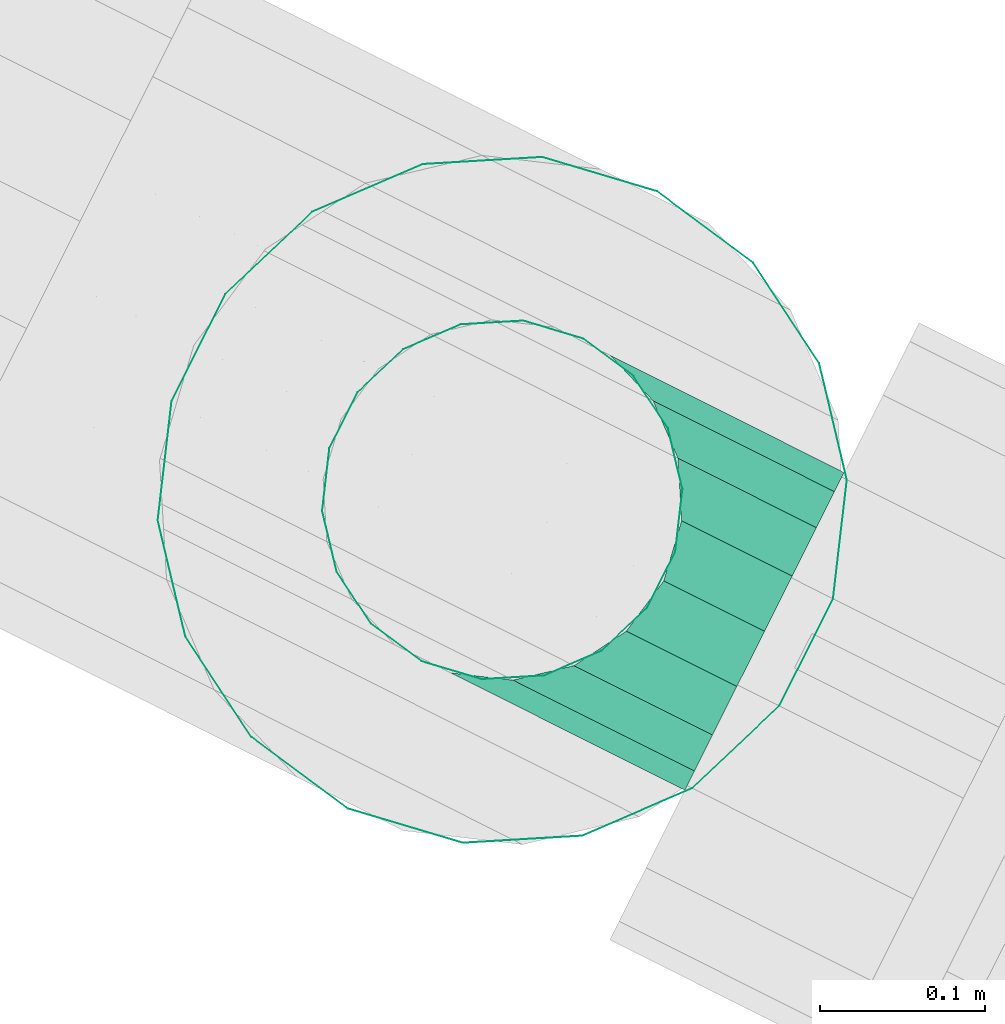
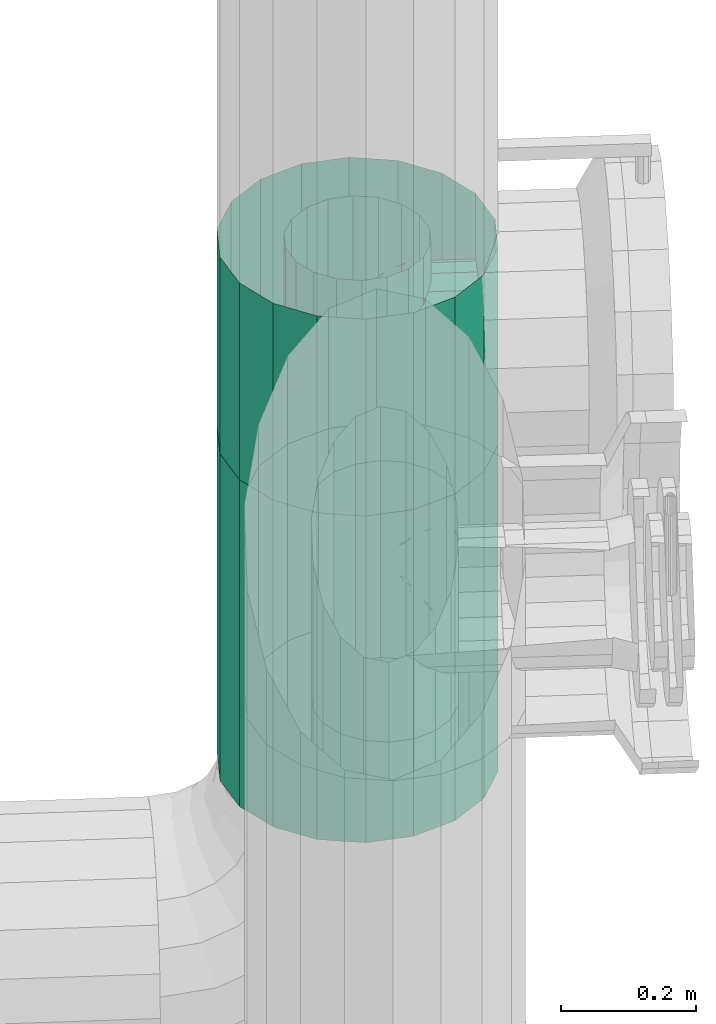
# One storey, part 9 of 11: 1 flow fitting, 1 flow segment.
"""IFC2X3 building model written with IfcOpenShell, lengths in metres."""

from ifc_helpers import new_model, si_unit, derived_unit, direction, frame, origin, place, context, subcontext, project, spatial, face_set, surface_model, source, transform, mapped, material, type_object, type_shapes, element, save


model = new_model("IFC2X3")

# Units and contexts
model_context = context("Model", 3, precision=5.2338327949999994e-05, world=origin(), true_north=direction((0.0, 1.0)))
body_context = subcontext(model_context, "Body", "Model", "MODEL_VIEW")
ifc_project = project(units=[si_unit("LENGTHUNIT", "METRE"), si_unit("AREAUNIT", "SQUARE_METRE"), si_unit("VOLUMEUNIT", "CUBIC_METRE"), si_unit("MASSUNIT", "GRAM", prefix="KILO"), si_unit("PLANEANGLEUNIT", "RADIAN"), derived_unit("THERMALTRANSMITTANCEUNIT", [(si_unit("MASSUNIT", "GRAM", prefix="KILO"), 1), (si_unit("THERMODYNAMICTEMPERATUREUNIT", "KELVIN"), -1), (si_unit("TIMEUNIT", "SECOND"), -3)])], contexts=[model_context])

# Site, building, storey
site_placement = place(None, frame((0.0, 0.0, 0.0), z_axis=(0.0, 0.0, 1.0), x_axis=(0.8939966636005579, -0.4480736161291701, 0.0)))
site = spatial("IfcSite", under=ifc_project, at=site_placement, Name="Default", CompositionType="ELEMENT")
building_placement = place(site_placement, origin())
building = spatial("IfcBuilding", under=site, at=building_placement, CompositionType="ELEMENT")
storey_placement = place(building_placement, frame((0.0, 0.0, -2.7499999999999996)))
storey = spatial("IfcBuildingStorey", under=building, at=storey_placement, Name="1. Untergeschoss", CompositionType="ELEMENT", Elevation=-2.7499999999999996)

# Flow fitting
ifc_material = material(Name="IfcSurfaceStyle #1741")
distribution_element_type_1 = type_object("IfcDistributionElementType", Name="Abzweigstück 860202:Abzweigstück 860202", material=ifc_material)
shared_shape_1 = source(origin(), body_context, "Body", "SurfaceModel", [
    surface_model("IfcFaceBasedSurfaceModel", [(0.9162699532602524, 8.121758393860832, -1.1831073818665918), (0.8788016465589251, 8.11515172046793, -1.1831073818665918), (0.8788016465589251, 8.11515172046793, -0.8271073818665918), (0.9162699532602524, 8.121758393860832, -0.8271073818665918), (0.8458525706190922, 8.096128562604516, -1.1831073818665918), (0.8458525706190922, 8.096128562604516, -0.8271073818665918), (0.821396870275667, 8.066983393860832, -1.1831073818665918), (0.821396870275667, 8.066983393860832, -0.8271073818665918), (0.8083842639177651, 8.031231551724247, -1.1831073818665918), (0.8083842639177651, 8.031231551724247, -0.8271073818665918), (0.8083842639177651, 7.993185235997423, -1.1831073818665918), (0.8083842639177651, 7.993185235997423, -0.8271073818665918), (0.8213968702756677, 7.957433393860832, -1.1831073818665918), (0.8213968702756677, 7.957433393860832, -0.8271073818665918), (0.8458525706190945, 7.928288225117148, -1.1831073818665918), (0.8458525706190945, 7.928288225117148, -0.8271073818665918), (0.8788016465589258, 7.909265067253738, -1.1831073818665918), (0.8788016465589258, 7.909265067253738, -0.8271073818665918), (0.9162699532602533, 7.902658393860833, -1.1831073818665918), (0.9162699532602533, 7.902658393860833, -0.8271073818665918), (0.9537382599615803, 7.909265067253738, -1.1831073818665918), (0.9537382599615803, 7.909265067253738, -0.8271073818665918), (0.9866873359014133, 7.928288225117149, -1.1831073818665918), (0.9866873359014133, 7.928288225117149, -0.8271073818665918), (1.0111430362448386, 7.957433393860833, -1.1831073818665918), (1.0111430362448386, 7.957433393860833, -0.8271073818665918), (1.02415564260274, 7.993185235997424, -1.1831073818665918), (1.02415564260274, 7.993185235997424, -0.8271073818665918), (1.0241556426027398, 8.031231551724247, -1.1831073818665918), (1.0241556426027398, 8.031231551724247, -0.8271073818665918), (1.011143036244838, 8.066983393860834, -1.1831073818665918), (1.011143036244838, 8.066983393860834, -0.8271073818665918), (0.9866873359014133, 8.096128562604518, -1.1831073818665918), (0.9866873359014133, 8.096128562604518, -0.8271073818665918), (0.9537382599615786, 8.11515172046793, -1.1831073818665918), (0.9537382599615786, 8.11515172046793, -0.8271073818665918), (0.9162699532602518, 8.221758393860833, -1.1831073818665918), (0.8445996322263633, 8.209120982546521, -1.1831073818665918), (0.8445996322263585, 8.20912098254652, -0.8271073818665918), (0.9162699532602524, 8.22175839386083, -0.8271073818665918), (0.7815738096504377, 8.172733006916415, -1.1831073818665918), (0.7815738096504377, 8.172733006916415, -0.8271073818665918), (0.7347943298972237, 8.11698339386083, -1.1831073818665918), (0.7347943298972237, 8.11698339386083, -0.8271073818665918), (0.7099034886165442, 8.048596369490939, -1.1831073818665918), (0.7099034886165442, 8.048596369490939, -0.8271073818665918), (0.7099034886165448, 7.975820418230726, -1.1831073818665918), (0.7099034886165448, 7.975820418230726, -0.8271073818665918), (0.7347943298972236, 7.907433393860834, -1.1831073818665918), (0.7347943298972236, 7.907433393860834, -0.8271073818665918), (0.7815738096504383, 7.85168378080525, -1.1831073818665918), (0.7815738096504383, 7.85168378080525, -0.8271073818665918), (0.84459963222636, 7.815295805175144, -1.1831073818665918), (0.84459963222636, 7.815295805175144, -0.8271073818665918), (0.9162699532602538, 7.802658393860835, -1.1831073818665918), (0.9162699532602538, 7.802658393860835, -0.8271073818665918), (0.9879402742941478, 7.815295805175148, -1.1831073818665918), (0.9879402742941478, 7.815295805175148, -0.8271073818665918), (1.0509660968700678, 7.851683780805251, -1.1831073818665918), (1.0509660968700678, 7.851683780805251, -0.8271073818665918), (1.0977455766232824, 7.907433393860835, -1.1831073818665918), (1.0977455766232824, 7.907433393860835, -0.8271073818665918), (1.1226364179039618, 7.975820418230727, -1.1831073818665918), (1.1226364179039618, 7.975820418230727, -0.8271073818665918), (1.1226364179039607, 8.048596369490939, -1.1831073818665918), (1.1226364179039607, 8.048596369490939, -0.8271073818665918), (1.0977455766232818, 8.116983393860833, -1.1831073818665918), (1.0977455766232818, 8.116983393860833, -0.8271073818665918), (1.0509660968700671, 8.172733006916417, -1.1831073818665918), (1.0509660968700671, 8.172733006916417, -0.8271073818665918), (0.9879402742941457, 8.209120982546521, -1.1831073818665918), (0.9879402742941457, 8.209120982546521, -0.8271073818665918), (1.025819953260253, 8.012208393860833, -0.8955573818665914), (1.0192132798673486, 7.974740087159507, -0.9021640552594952), (1.094269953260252, 7.974740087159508, -0.9021640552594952), (1.0942699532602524, 8.012208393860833, -0.8955573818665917), (1.0001901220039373, 7.941791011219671, -0.9211872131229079), (1.0942699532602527, 7.941791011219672, -0.9211872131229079), (0.9710449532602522, 7.917335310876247, -0.9503323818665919), (1.0942699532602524, 7.917335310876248, -0.950332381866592), (0.9352931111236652, 7.904322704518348, -0.98608422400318), (1.094269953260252, 7.904322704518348, -0.9860842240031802), (0.9352931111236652, 7.904322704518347, -1.024130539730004), (1.094269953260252, 7.904322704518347, -1.024130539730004), (0.9710449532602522, 7.917335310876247, -1.0598823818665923), (1.0942699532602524, 7.917335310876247, -1.0598823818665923), (1.0001901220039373, 7.94179101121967, -1.0890275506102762), (1.0942699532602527, 7.941791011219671, -1.0890275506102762), (1.0192132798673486, 7.974740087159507, -1.1080507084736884), (1.094269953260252, 7.974740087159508, -1.1080507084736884), (1.025819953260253, 8.012208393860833, -1.1146573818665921), (1.0942699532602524, 8.012208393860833, -1.1146573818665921), (1.0192132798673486, 8.049676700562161, -1.1080507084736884), (1.094269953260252, 8.049676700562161, -1.1080507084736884), (1.000190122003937, 8.082625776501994, -1.089027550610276), (1.0942699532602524, 8.082625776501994, -1.089027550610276), (0.9710449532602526, 8.107081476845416, -1.0598823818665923), (1.0942699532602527, 8.107081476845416, -1.0598823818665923), (0.9352931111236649, 8.12009408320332, -1.0241305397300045), (1.094269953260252, 8.120094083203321, -1.0241305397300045), (0.9352931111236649, 8.12009408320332, -0.9860842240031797), (1.094269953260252, 8.120094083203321, -0.9860842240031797), (0.9710449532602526, 8.107081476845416, -0.9503323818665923), (1.0942699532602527, 8.107081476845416, -0.9503323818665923), (1.000190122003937, 8.082625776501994, -0.9211872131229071), (1.0942699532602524, 8.082625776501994, -0.9211872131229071), (1.0192132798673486, 8.049676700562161, -0.9021640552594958), (1.094269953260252, 8.049676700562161, -0.902164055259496)], [face_set([[[0, 1, 2, 3]], [[1, 4, 5, 2]], [[4, 6, 7, 5]], [[6, 8, 9, 7]], [[8, 10, 11, 9]], [[10, 12, 13, 11]], [[12, 14, 15, 13]], [[14, 16, 17, 15]], [[16, 18, 19, 17]], [[18, 20, 21, 19]], [[20, 22, 23, 21]], [[22, 24, 25, 23]], [[24, 26, 27, 25]], [[26, 28, 29, 27]], [[28, 30, 31, 29]], [[30, 32, 33, 31]], [[32, 34, 35, 33]], [[34, 0, 3, 35]], [[36, 37, 38, 39]], [[37, 40, 41, 38]], [[40, 42, 43, 41]], [[42, 44, 45, 43]], [[44, 46, 47, 45]], [[46, 48, 49, 47]], [[48, 50, 51, 49]], [[50, 52, 53, 51]], [[52, 54, 55, 53]], [[54, 56, 57, 55]], [[56, 58, 59, 57]], [[58, 60, 61, 59]], [[60, 62, 63, 61]], [[62, 64, 65, 63]], [[64, 66, 67, 65]], [[66, 68, 69, 67]], [[68, 70, 71, 69]], [[70, 36, 39, 71]], [[72, 73, 74, 75]], [[73, 76, 77, 74]], [[76, 78, 79, 77]], [[78, 80, 81, 79]], [[80, 82, 83, 81]], [[82, 84, 85, 83]], [[84, 86, 87, 85]], [[86, 88, 89, 87]], [[88, 90, 91, 89]], [[90, 92, 93, 91]], [[92, 94, 95, 93]], [[94, 96, 97, 95]], [[96, 98, 99, 97]], [[98, 100, 101, 99]], [[100, 102, 103, 101]], [[102, 104, 105, 103]], [[104, 106, 107, 105]], [[106, 72, 75, 107]]])]),
])
type_shapes(distribution_element_type_1, [shared_shape_1])
flow_fitting_placement = place(storey_placement, frame((0.0, 0.0, 2.7499999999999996)))
element("IfcFlowFitting", 1, at=flow_fitting_placement, inside=storey, type_object=distribution_element_type_1, material=ifc_material, Name="Abzweigstück", ObjectType="Abzweigstück", context=body_context, shape_type="MappedRepresentation", body=[
    mapped(shared_shape_1, transform((0.0, 0.0, 0.0), scale=1.0)),
])

# Flow segment
distribution_element_type_2 = type_object("IfcDistributionElementType", Name="Stahlrohr nach DIN 2448 860225:Stahlrohr nach DIN 2448 860225", material=ifc_material)
shared_shape_2 = source(origin(), body_context, "Body", "SurfaceModel", [
    surface_model("IfcFaceBasedSurfaceModel", [(0.9162699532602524, 8.121758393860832, -1.7739999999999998), (0.8788016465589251, 8.11515172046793, -1.7739999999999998), (0.8788016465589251, 8.11515172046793, -1.1831073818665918), (0.9162699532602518, 8.121758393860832, -1.1831073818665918), (0.8458525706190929, 8.096128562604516, -1.7739999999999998), (0.8458525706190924, 8.096128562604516, -1.1831073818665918), (0.821396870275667, 8.066983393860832, -1.7739999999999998), (0.821396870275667, 8.066983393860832, -1.1831073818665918), (0.8083842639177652, 8.031231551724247, -1.7739999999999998), (0.8083842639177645, 8.031231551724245, -1.1831073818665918), (0.808384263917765, 7.993185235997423, -1.7739999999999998), (0.808384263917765, 7.993185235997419, -1.1831073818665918), (0.8213968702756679, 7.957433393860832, -1.7739999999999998), (0.8213968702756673, 7.957433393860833, -1.1831073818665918), (0.8458525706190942, 7.928288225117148, -1.7739999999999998), (0.8458525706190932, 7.928288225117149, -1.1831073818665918), (0.8788016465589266, 7.909265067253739, -1.7739999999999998), (0.878801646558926, 7.909265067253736, -1.1831073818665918), (0.9162699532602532, 7.902658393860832, -1.7739999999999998), (0.916269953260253, 7.902658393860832, -1.1831073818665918), (0.9537382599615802, 7.909265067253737, -1.7739999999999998), (0.9537382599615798, 7.909265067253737, -1.1831073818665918), (0.9866873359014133, 7.928288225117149, -1.7739999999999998), (0.9866873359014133, 7.928288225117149, -1.1831073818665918), (1.0111430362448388, 7.957433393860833, -1.7739999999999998), (1.011143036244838, 7.957433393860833, -1.1831073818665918), (1.0241556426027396, 7.993185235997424, -1.7739999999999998), (1.0241556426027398, 7.993185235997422, -1.1831073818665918), (1.02415564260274, 8.031231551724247, -1.7739999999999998), (1.02415564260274, 8.031231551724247, -1.1831073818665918), (1.0111430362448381, 8.066983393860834, -1.7739999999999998), (1.0111430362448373, 8.066983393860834, -1.1831073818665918), (0.9866873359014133, 8.096128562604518, -1.7739999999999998), (0.9866873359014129, 8.096128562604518, -1.1831073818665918), (0.9537382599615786, 8.115151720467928, -1.7739999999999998), (0.9537382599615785, 8.115151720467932, -1.1831073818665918), (0.916269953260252, 8.221758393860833, -1.7739999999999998), (0.8445996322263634, 8.209120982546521, -1.7739999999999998), (0.8445996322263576, 8.20912098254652, -1.1831073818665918), (0.9162699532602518, 8.22175839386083, -1.1831073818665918), (0.7815738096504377, 8.172733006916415, -1.7739999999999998), (0.7815738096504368, 8.172733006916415, -1.1831073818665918), (0.7347943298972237, 8.11698339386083, -1.7739999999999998), (0.7347943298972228, 8.116983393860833, -1.1831073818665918), (0.7099034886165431, 8.048596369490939, -1.7739999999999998), (0.7099034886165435, 8.048596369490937, -1.1831073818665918), (0.7099034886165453, 7.975820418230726, -1.7739999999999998), (0.7099034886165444, 7.975820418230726, -1.1831073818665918), (0.7347943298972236, 7.907433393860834, -1.7739999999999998), (0.7347943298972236, 7.907433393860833, -1.1831073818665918), (0.7815738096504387, 7.85168378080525, -1.7739999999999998), (0.7815738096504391, 7.851683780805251, -1.1831073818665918), (0.8445996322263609, 7.815295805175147, -1.7739999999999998), (0.8445996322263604, 7.815295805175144, -1.1831073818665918), (0.9162699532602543, 7.802658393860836, -1.7739999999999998), (0.9162699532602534, 7.802658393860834, -1.1831073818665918), (0.987940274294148, 7.815295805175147, -1.7739999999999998), (0.9879402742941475, 7.815295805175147, -1.1831073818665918), (1.050966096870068, 7.85168378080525, -1.7739999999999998), (1.0509660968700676, 7.851683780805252, -1.1831073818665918), (1.0977455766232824, 7.907433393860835, -1.7739999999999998), (1.0977455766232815, 7.907433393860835, -1.1831073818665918), (1.1226364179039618, 7.975820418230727, -1.7739999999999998), (1.122636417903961, 7.975820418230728, -1.1831073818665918), (1.1226364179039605, 8.048596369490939, -1.7739999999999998), (1.1226364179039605, 8.048596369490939, -1.1831073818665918), (1.097745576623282, 8.116983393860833, -1.7739999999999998), (1.097745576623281, 8.116983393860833, -1.1831073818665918), (1.0509660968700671, 8.172733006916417, -1.7739999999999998), (1.0509660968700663, 8.172733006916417, -1.1831073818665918), (0.9879402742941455, 8.209120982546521, -1.7739999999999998), (0.9879402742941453, 8.209120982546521, -1.1831073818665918)], [face_set([[[0, 1, 2, 3]], [[1, 4, 5, 2]], [[4, 6, 7, 5]], [[6, 8, 9, 7]], [[8, 10, 11, 9]], [[10, 12, 13, 11]], [[12, 14, 15, 13]], [[14, 16, 17, 15]], [[16, 18, 19, 17]], [[18, 20, 21, 19]], [[20, 22, 23, 21]], [[22, 24, 25, 23]], [[24, 26, 27, 25]], [[26, 28, 29, 27]], [[28, 30, 31, 29]], [[30, 32, 33, 31]], [[32, 34, 35, 33]], [[34, 0, 3, 35]], [[36, 37, 38, 39]], [[37, 40, 41, 38]], [[40, 42, 43, 41]], [[42, 44, 45, 43]], [[44, 46, 47, 45]], [[46, 48, 49, 47]], [[48, 50, 51, 49]], [[50, 52, 53, 51]], [[52, 54, 55, 53]], [[54, 56, 57, 55]], [[56, 58, 59, 57]], [[58, 60, 61, 59]], [[60, 62, 63, 61]], [[62, 64, 65, 63]], [[64, 66, 67, 65]], [[66, 68, 69, 67]], [[68, 70, 71, 69]], [[70, 36, 39, 71]]])]),
])
type_shapes(distribution_element_type_2, [shared_shape_2])
flow_segment_placement = place(storey_placement, frame((0.0, 0.0, 2.7499999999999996)))
element("IfcFlowSegment", 2, at=flow_segment_placement, inside=storey, type_object=distribution_element_type_2, material=ifc_material, Name="Stahlrohr nach DIN 2448", ObjectType="Stahlrohr nach DIN 2448", context=body_context, shape_type="MappedRepresentation", body=[
    mapped(shared_shape_2, transform((0.0, 0.0, 0.0), scale=1.0)),
])

save(model, "model.ifc")
